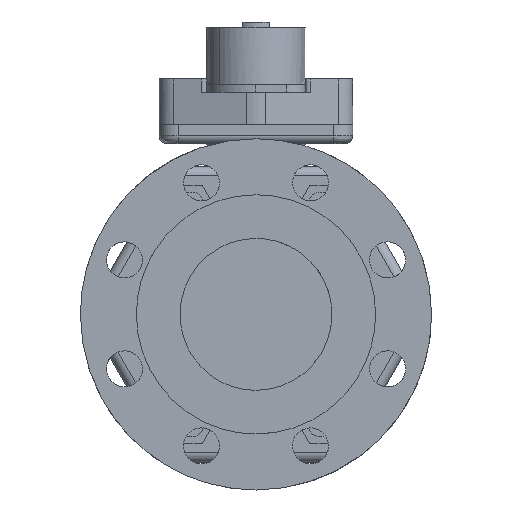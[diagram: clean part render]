
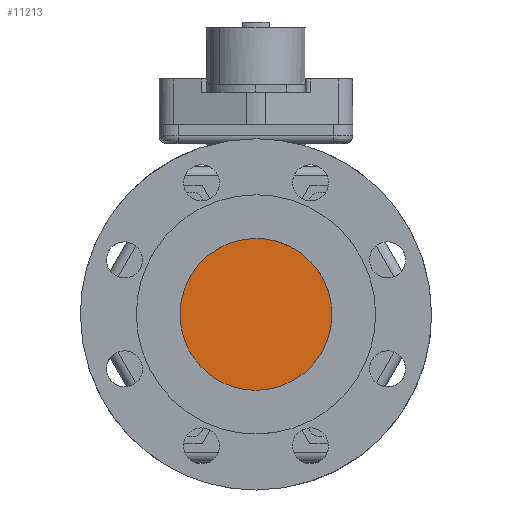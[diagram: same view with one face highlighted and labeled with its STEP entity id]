
A CAD part, left-side view. The second image highlights one B-rep face of the part: STEP entity #11213.
In plain terms, the highlighted free-form (B-spline) face has degree [1, 1] with [2, 2] control points.
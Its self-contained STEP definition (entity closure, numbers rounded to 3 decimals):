
#3676=CARTESIAN_POINT('',(-40.,27.534,29.015));
#3677=VERTEX_POINT('',#3676);
#3683=CARTESIAN_POINT('',(-40.,0.,40.));
#3684=VERTEX_POINT('',#3683);
#3685=CARTESIAN_POINT('',(-40.,0.,40.));
#3686=CARTESIAN_POINT('',(-40.,3.955,40.002));
#3687=CARTESIAN_POINT('',(-40.,9.806,39.125));
#3688=CARTESIAN_POINT('',(-40.,17.648,36.103));
#3689=CARTESIAN_POINT('',(-40.,22.982,32.95));
#3690=CARTESIAN_POINT('',(-40.,26.272,30.213));
#3691=CARTESIAN_POINT('',(-40.,27.534,29.015));
#3692=B_SPLINE_CURVE_WITH_KNOTS('',3,(#3685,#3686,#3687,#3688,#3689,#3690,#3691),.UNSPECIFIED.,.F.,.U.,(4,1,1,1,4),(0.,11.863,17.557,25.149,30.369),.UNSPECIFIED.);
#3693=EDGE_CURVE('',#3684,#3677,#3692,.T.);
#3695=CARTESIAN_POINT('',(-40.,-40.,0.));
#3696=VERTEX_POINT('',#3695);
#3697=CARTESIAN_POINT('',(-40.,-40.,0.));
#3698=CARTESIAN_POINT('',(-40.,-40.,16.569));
#3699=CARTESIAN_POINT('',(-40.,-28.284,28.284));
#3700=CARTESIAN_POINT('',(-40.,-16.569,40.));
#3701=CARTESIAN_POINT('',(-40.,0.,40.));
#3709=(BOUNDED_CURVE()B_SPLINE_CURVE(2,(#3697,#3698,#3699,#3700,#3701),.UNSPECIFIED.,.F.,.U.)B_SPLINE_CURVE_WITH_KNOTS((3,2,3),(0.,0.5,1.),.UNSPECIFIED.)CURVE()GEOMETRIC_REPRESENTATION_ITEM()RATIONAL_B_SPLINE_CURVE((1.,0.924,1.,0.924,1.))REPRESENTATION_ITEM(''));
#3710=EDGE_CURVE('',#3696,#3684,#3709,.T.);
#3712=CARTESIAN_POINT('',(-40.,-27.534,-29.015));
#3713=VERTEX_POINT('',#3712);
#3714=CARTESIAN_POINT('',(-40.,-27.534,-29.015));
#3715=CARTESIAN_POINT('',(-40.,-29.62,-27.037));
#3716=CARTESIAN_POINT('',(-40.,-33.03,-23.017));
#3717=CARTESIAN_POINT('',(-40.,-36.741,-16.34));
#3718=CARTESIAN_POINT('',(-40.,-39.324,-8.792));
#3719=CARTESIAN_POINT('',(-40.,-40.001,-3.213));
#3720=CARTESIAN_POINT('',(-40.,-40.,0.));
#3721=B_SPLINE_CURVE_WITH_KNOTS('',3,(#3714,#3715,#3716,#3717,#3718,#3719,#3720),.UNSPECIFIED.,.F.,.U.,(4,1,1,1,4),(0.,8.623,15.724,22.826,32.463),.UNSPECIFIED.);
#3722=EDGE_CURVE('',#3713,#3696,#3721,.T.);
#3763=CARTESIAN_POINT('',(-40.,0.,-40.));
#3764=VERTEX_POINT('',#3763);
#3765=CARTESIAN_POINT('',(-40.,0.,-40.));
#3766=CARTESIAN_POINT('',(-40.,-3.955,-40.002));
#3767=CARTESIAN_POINT('',(-40.,-9.806,-39.125));
#3768=CARTESIAN_POINT('',(-40.,-17.056,-36.331));
#3769=CARTESIAN_POINT('',(-40.,-22.453,-33.311));
#3770=CARTESIAN_POINT('',(-40.,-25.813,-30.648));
#3771=CARTESIAN_POINT('',(-40.,-27.534,-29.015));
#3772=B_SPLINE_CURVE_WITH_KNOTS('',3,(#3765,#3766,#3767,#3768,#3769,#3770,#3771),.UNSPECIFIED.,.F.,.U.,(4,1,1,1,4),(0.,11.863,17.557,23.251,30.369),.UNSPECIFIED.);
#3773=EDGE_CURVE('',#3764,#3713,#3772,.T.);
#3775=CARTESIAN_POINT('',(-40.,40.,0.));
#3776=VERTEX_POINT('',#3775);
#3777=CARTESIAN_POINT('',(-40.,40.,0.));
#3778=CARTESIAN_POINT('',(-40.,40.,-2.782));
#3779=CARTESIAN_POINT('',(-40.,39.537,-7.199));
#3780=CARTESIAN_POINT('',(-40.,37.657,-13.993));
#3781=CARTESIAN_POINT('',(-40.,35.056,-19.673));
#3782=CARTESIAN_POINT('',(-40.,31.343,-25.085));
#3783=CARTESIAN_POINT('',(-40.,27.099,-29.653));
#3784=CARTESIAN_POINT('',(-40.,21.274,-34.2));
#3785=CARTESIAN_POINT('',(-40.,14.484,-37.565));
#3786=CARTESIAN_POINT('',(-40.,7.036,-39.577));
#3787=CARTESIAN_POINT('',(-40.,2.454,-40.));
#3788=CARTESIAN_POINT('',(-40.,0.,-40.));
#3789=B_SPLINE_CURVE_WITH_KNOTS('',3,(#3777,#3778,#3779,#3780,#3781,#3782,#3783,#3784,#3785,#3786,#3787,#3788),.UNSPECIFIED.,.F.,.U.,(4,1,1,1,1,1,1,1,1,4),(0.,8.345,13.254,21.108,26.998,32.889,39.761,49.088,55.469,62.832),.UNSPECIFIED.);
#3790=EDGE_CURVE('',#3776,#3764,#3789,.T.);
#3792=CARTESIAN_POINT('',(-40.,27.534,29.015));
#3793=CARTESIAN_POINT('',(-40.,29.62,27.037));
#3794=CARTESIAN_POINT('',(-40.,32.81,23.276));
#3795=CARTESIAN_POINT('',(-40.,36.096,17.537));
#3796=CARTESIAN_POINT('',(-40.,38.235,12.188));
#3797=CARTESIAN_POINT('',(-40.,39.651,6.425));
#3798=CARTESIAN_POINT('',(-40.,40.,2.198));
#3799=CARTESIAN_POINT('',(-40.,40.,0.));
#3800=B_SPLINE_CURVE_WITH_KNOTS('',3,(#3792,#3793,#3794,#3795,#3796,#3797,#3798,#3799),.UNSPECIFIED.,.F.,.U.,(4,1,1,1,1,4),(0.,8.623,14.71,19.782,25.869,32.463),.UNSPECIFIED.);
#3801=EDGE_CURVE('',#3677,#3776,#3800,.T.);
#11200=CARTESIAN_POINT('',(-40.,-43.996,43.996));
#11201=CARTESIAN_POINT('',(-40.,-43.996,-43.996));
#11202=CARTESIAN_POINT('',(-40.,43.996,43.996));
#11203=CARTESIAN_POINT('',(-40.,43.996,-43.996));
#11204=B_SPLINE_SURFACE_WITH_KNOTS('',1,1,((#11200,#11202),(#11201,#11203)),.UNSPECIFIED.,.F.,.F.,.U.,(2,2),(2,2),(0.,87.992),(0.,87.992),.UNSPECIFIED.);
#11205=ORIENTED_EDGE('',*,*,#3773,.T.);
#11206=ORIENTED_EDGE('',*,*,#3722,.T.);
#11207=ORIENTED_EDGE('',*,*,#3710,.T.);
#11208=ORIENTED_EDGE('',*,*,#3693,.T.);
#11209=ORIENTED_EDGE('',*,*,#3801,.T.);
#11210=ORIENTED_EDGE('',*,*,#3790,.T.);
#11211=EDGE_LOOP('',(#11205,#11206,#11207,#11208,#11209,#11210));
#11212=FACE_OUTER_BOUND('',#11211,.T.);
#11213=ADVANCED_FACE('',(#11212),#11204,.F.);
